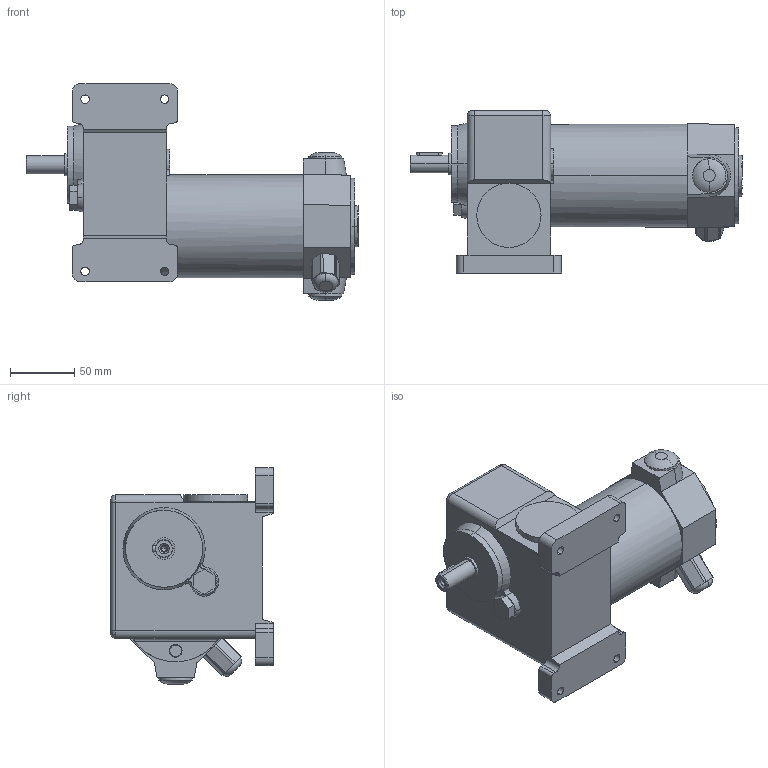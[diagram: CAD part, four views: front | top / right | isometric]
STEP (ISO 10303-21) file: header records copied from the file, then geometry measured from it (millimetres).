
FILE_DESCRIPTION(('OneSpaceDesigner STEP Export'),'2;1');
FILE_NAME('EPG12_G24.stp','2008-07-17T 7:51:36',(''),(''),'OneSpace Designer STEP processor (Jan. 2003) for AP214(CD)(Solid Model)','OneSpace Designer 12.01D 09-Jul-2004 (C) CoCreate Software GmbH','');
FILE_SCHEMA(('AUTOMOTIVE_DESIGN_CC2 {1 2 10303 214 -1 1 5 1}'));
Length unit declared in the file: millimetre
Products named in the file (2): EPG12_G24
Assembly tree (1 placements, depth 2):
  EPG12_G24
    EPG12_G24
Bounding box: 258.5 x 126.5 x 168.5 mm (x, y, z)
Volume: 1746416.7 mm3; surface area: 117225.4 mm2
Topology: 1 solids, 1 shells, 168 faces, 448 edges, 296 vertices
Faces by surface type: plane 72, cylinder 70, torus 10, bspline 8, cone 8
Entity records: 10460 total; most frequent: CARTESIAN_POINT 6513, ORIENTED_EDGE 892, DIRECTION 721, EDGE_CURVE 446, VERTEX_POINT 296, AXIS2_PLACEMENT_3D 246, VECTOR 229, LINE 229
